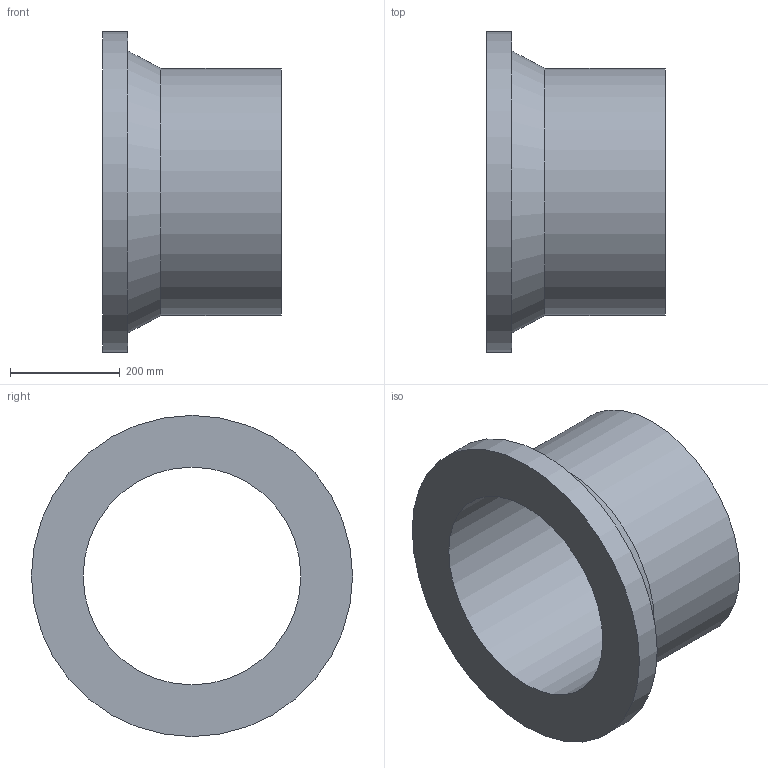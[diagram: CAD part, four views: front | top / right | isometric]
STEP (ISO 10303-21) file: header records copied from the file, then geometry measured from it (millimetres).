
FILE_DESCRIPTION(('Beschreibung'),'1');
FILE_NAME('V:/Ziel/25.80.01.063_SDR_17_PE100_450.STP', '2014-09-15T06:01:20',('Author'), ('Organization'), 'KCM Version 1.1.794.0', 'Kubotek KeyCreator', 'Authorization');
FILE_SCHEMA(('CONFIG_CONTROL_DESIGN'));
Length unit declared in the file: millimetre
Bounding box: 326 x 585 x 585 mm (x, y, z)
Volume: 18044696.7 mm3; surface area: 1146745.2 mm2
Topology: 1 solids, 1 shells, 7 faces, 18 edges, 21 vertices
Faces by surface type: cylinder 3, plane 3, cone 1
Full cylindrical faces by diameter (mm): 396.6 x1, 450 x1, 585 x1
Entity records: 286 total; most frequent: DIRECTION 41, CARTESIAN_POINT 33, ORIENTED_EDGE 22, AXIS2_PLACEMENT_3D 15, EDGE_CURVE 11, VECTOR 11, LINE 11, EDGE_LOOP 10
